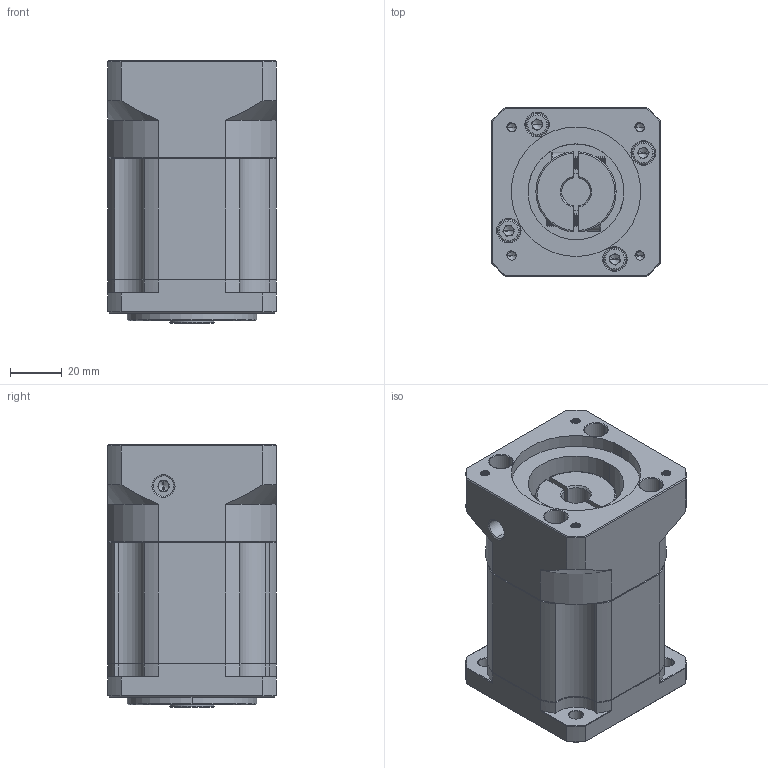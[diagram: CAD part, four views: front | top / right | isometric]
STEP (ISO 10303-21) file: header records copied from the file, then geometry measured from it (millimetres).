
FILE_DESCRIPTION (( 'STEP AP214' ), '1' );
FILE_NAME ('ZB060-K10-L2-P2-11-50-70-M4.step', '2023-08-16T07:10:45', ( '' ), ( '' ), 'SwSTEP 2.0', 'SolidWorks 2016', '' );
FILE_SCHEMA (( 'AUTOMOTIVE_DESIGN' ));
Length unit declared in the file: millimetre
Products named in the file (1): ZB060-K10-L2-P2-11-50-70-M4
Bounding box: 65 x 65 x 101.5 mm (x, y, z)
Volume: 322950 mm3; surface area: 57572.8 mm2
Topology: 6 solids, 6 shells, 2099 faces, 5650 edges, 3642 vertices
Faces by surface type: plane 1056, bspline 390, cylinder 342, cone 277, torus 34
Entity records: 108890 total; most frequent: CARTESIAN_POINT 35956, ORIENTED_EDGE 11244, DIRECTION 8938, EDGE_CURVE 5622, VERTEX_POINT 3642, VECTOR 3582, LINE 3582, AXIS2_PLACEMENT_3D 2678
